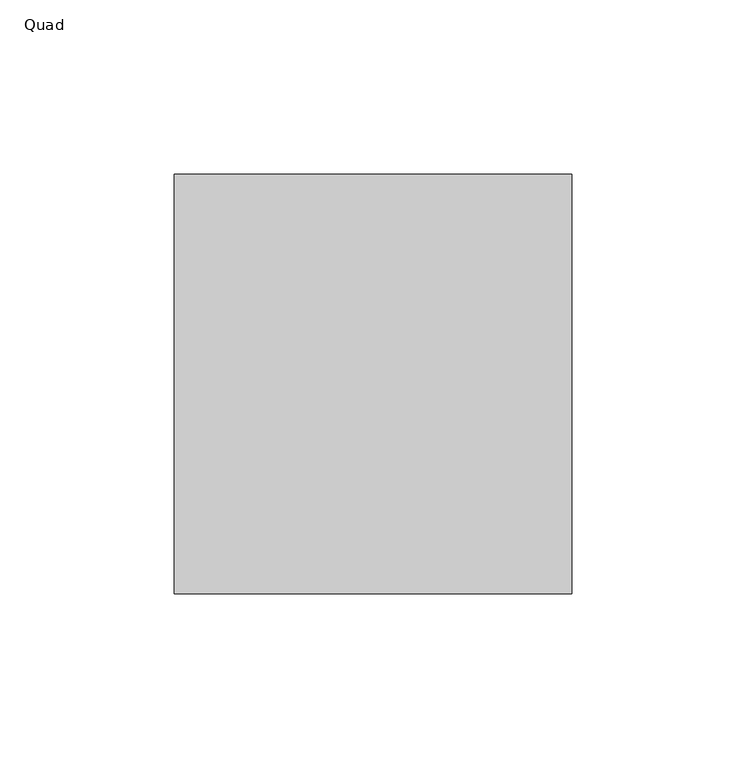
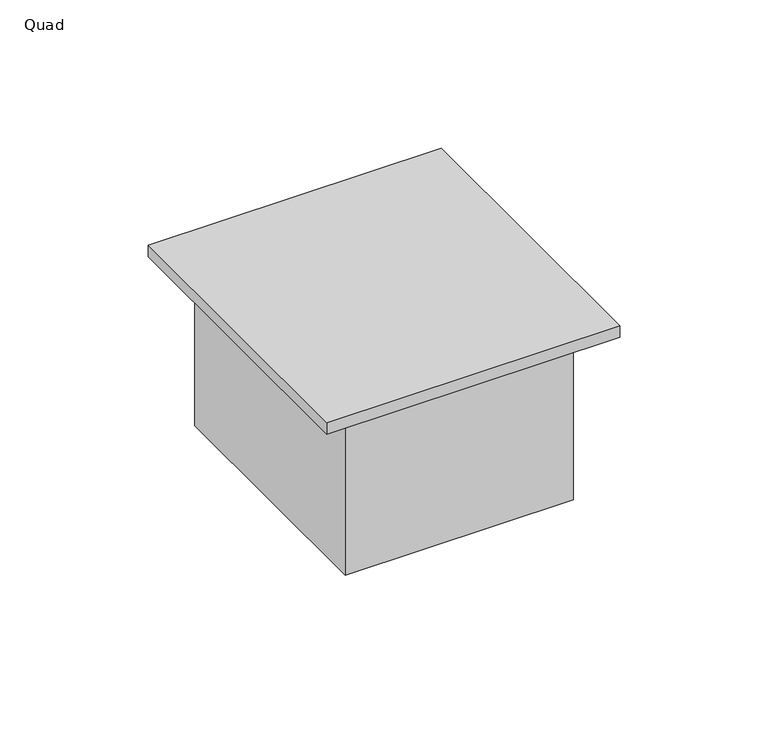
"""IFC4 building model written with IfcOpenShell, lengths in millimetres: proxy geometry, OMAHA - Receptacle - 120V 1P with OS Control : Quad."""

from ifc_helpers import new_model, si_unit, frame, origin, origin_with_axes, place, context, project, spatial, polyline, outline, extrude, source, transform, mapped, element, save


def quad_46bcb757(model_context):
    return source(origin(), model_context, "Body", "SweptSolid", [
        extrude(outline(polyline([(57.15, 0.0), (57.15, -120.65), (-57.15, -120.65), (-57.15, 0.0), (57.15, 0.0)])), frame((0.0, 0.0, 68.2625), z_axis=(0.0, 0.0, 1.0), x_axis=(1.0, 0.0, 0.0)), (0.0, 0.0, 1.0), 4.7625),
        extrude(outline(polyline([(57.15, 0.0), (57.15, -120.65), (-57.15, -120.65), (-57.15, 0.0), (57.15, 0.0)])), frame((0.0, 0.0, 68.2625), z_axis=(0.0, 0.0, 1.0), x_axis=(1.0, 0.0, 0.0)), (0.0, 0.0, 1.0), 4.7625),
        extrude(outline(polyline([(44.45, -9.525), (44.45, -111.125), (-44.45, -111.125), (-44.45, -9.525), (44.45, -9.525)])), origin_with_axes(), (0.0, 0.0, 1.0), 68.2625),
        extrude(outline(polyline([(44.45, -9.525), (44.45, -111.125), (-44.45, -111.125), (-44.45, -9.525), (44.45, -9.525)])), origin_with_axes(), (0.0, 0.0, 1.0), 68.2625),
    ])


if __name__ == "__main__":
    model = new_model("IFC4")
    model_context = context("Model", 3, world=origin())
    ifc_project = project(units=[si_unit("LENGTHUNIT", "METRE", prefix="MILLI")], contexts=[model_context])
    site = spatial("IfcSite", under=ifc_project)
    building = spatial("IfcBuilding", under=site)
    placement = place(None, origin())
    quad_shape = quad_46bcb757(model_context)
    element("IfcBuildingElementProxy", 1, Name="OMAHA - Receptacle - 120V 1P with OS Control : Quad", ObjectType="OMAHA - Receptacle - 120V 1P with OS Control : Quad", at=placement, inside=building, context=model_context, shape_type="MappedRepresentation", body=[
        mapped(quad_shape, transform((0.0, 0.0, 0.0), x_axis=(1.0, 0.0, 0.0), y_axis=(0.0, 1.0, 0.0), z_axis=(0.0, 0.0, 1.0))),
    ])
    save(model, "model.ifc")
